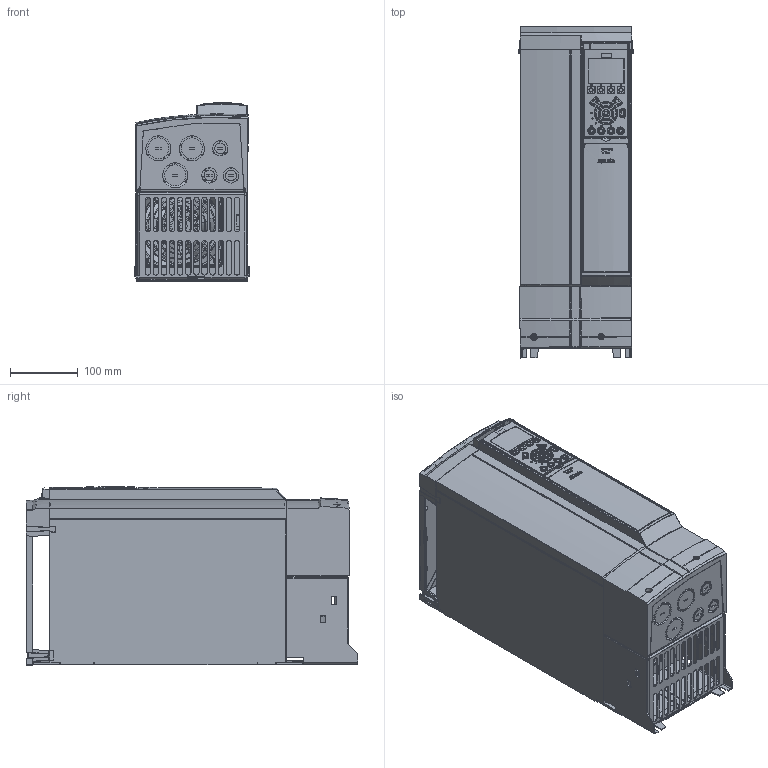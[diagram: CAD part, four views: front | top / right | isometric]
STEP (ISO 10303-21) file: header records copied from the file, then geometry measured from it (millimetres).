
FILE_DESCRIPTION((''),'2;1');
FILE_NAME('DANFOSS-FC200-B3NEMA1-KIT-B-186','2008-07-24T',('Abhilash.Paramesh'),('dan Drives A/S'),'PRO/ENGINEER BY PARAMETRIC TECHNOLOGY CORPORATION, 2007160','PRO/ENGINEER BY PARAMETRIC TECHNOLOGY CORPORATION, 2007160','');
FILE_SCHEMA(('CONFIG_CONTROL_DESIGN', 'GEOMETRIC_VALIDATION_PROPERTIES_MIM'));
Products named in the file (1): DANFOSS-FC200-B3NEMA1-KIT-B-186
Bounding box: 169.82 x 490.92 x 264.1 mm (x, y, z)
Volume: 14414107.5 mm3; surface area: 925345.6 mm2
Topology: 3 solids, 22 shells, 6872 faces, 17475 edges, 10646 vertices
Faces by surface type: plane 2662, cylinder 2213, bspline 830, torus 589, sphere 342, cone 154, extrusion 82
Entity records: 323761 total; most frequent: CARTESIAN_POINT 98014, ORIENTED_EDGE 34710, DIRECTION 30439, PRESENTATION_STYLE_ASSIGNMENT 19551, STYLED_ITEM 17358, CURVE_STYLE 17355, EDGE_CURVE 17355, AXIS2_PLACEMENT_3D 10845
